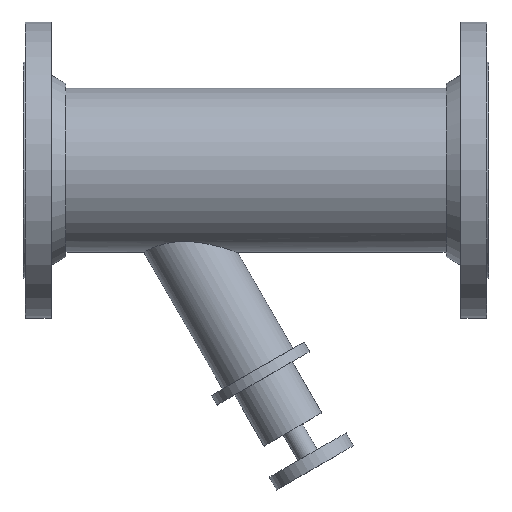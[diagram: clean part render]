
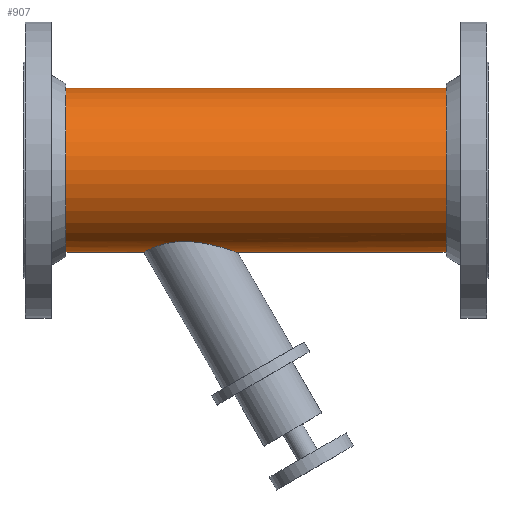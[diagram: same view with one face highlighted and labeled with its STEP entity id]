
A CAD part, top view. The second image highlights one B-rep face of the part: STEP entity #907.
In plain terms, the highlighted cylindrical face has radius 70.65 mm (diameter 141.3 mm), a full revolution.
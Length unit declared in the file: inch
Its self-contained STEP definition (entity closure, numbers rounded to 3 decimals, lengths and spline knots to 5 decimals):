
#45=B_SPLINE_CURVE_WITH_KNOTS('',3,(#1568,#1569,#1570,#1571,#1572,#1573,
#1574,#1575,#1576,#1577,#1578,#1579,#1580,#1581,#1582,#1583,#1584,#1585,
#1586,#1587,#1588,#1589,#1590,#1591,#1592,#1593,#1594,#1595,#1596,#1597,
#1598,#1599),.UNSPECIFIED.,.F.,.F.,(4,2,2,2,2,2,2,2,2,2,2,2,2,2,2,4),(6.1503,
6.82577,7.50123,8.17669,8.85215,10.57638,
11.43849,12.30061,12.99943,13.69826,14.39709,
15.09591,15.75445,16.41298,17.07152,17.73005),
 .UNSPECIFIED.);
#46=B_SPLINE_CURVE_WITH_KNOTS('',3,(#1602,#1603,#1604,#1605,#1606,#1607,
#1608,#1609,#1610,#1611,#1612,#1613,#1614,#1615,#1616,#1617,#1618,#1619),
 .UNSPECIFIED.,.F.,.F.,(4,2,2,2,2,2,2,2,4),(17.73005,18.38858,
19.04712,19.70565,20.36418,21.06301,21.76184,
22.46066,23.15949),.UNSPECIFIED.);
#47=B_SPLINE_CURVE_WITH_KNOTS('',3,(#1620,#1621,#1622,#1623,#1624,#1625,
#1626,#1627,#1628,#1629,#1630,#1631,#1632,#1633,#1634,#1635),
 .UNSPECIFIED.,.F.,.F.,(4,2,2,2,2,2,2,4),(0.,0.86211,1.72423,
3.44846,4.12392,4.79938,5.47484,6.1503),
 .UNSPECIFIED.);
#69=CYLINDRICAL_SURFACE('',#1033,2.7815);
#98=LINE('',#1566,#128);
#99=LINE('',#1600,#129);
#128=VECTOR('',#1290,2.7815);
#129=VECTOR('',#1291,2.7815);
#210=FACE_OUTER_BOUND('',#290,.T.);
#290=EDGE_LOOP('',(#753,#754,#755,#756,#757,#758,#759,#760,#761,#762,#763));
#311=CIRCLE('',#943,2.7815);
#312=CIRCLE('',#944,2.7815);
#361=CIRCLE('',#1016,2.7815);
#362=CIRCLE('',#1017,2.7815);
#393=VERTEX_POINT('',#1389);
#394=VERTEX_POINT('',#1390);
#443=VERTEX_POINT('',#1532);
#444=VERTEX_POINT('',#1533);
#455=VERTEX_POINT('',#1565);
#456=VERTEX_POINT('',#1567);
#457=VERTEX_POINT('',#1601);
#478=EDGE_CURVE('',#393,#394,#311,.T.);
#479=EDGE_CURVE('',#394,#393,#312,.T.);
#548=EDGE_CURVE('',#443,#444,#361,.T.);
#549=EDGE_CURVE('',#444,#443,#362,.T.);
#563=EDGE_CURVE('',#444,#455,#98,.T.);
#564=EDGE_CURVE('',#455,#456,#45,.T.);
#565=EDGE_CURVE('',#456,#394,#99,.T.);
#566=EDGE_CURVE('',#456,#457,#46,.T.);
#567=EDGE_CURVE('',#457,#455,#47,.T.);
#753=ORIENTED_EDGE('',*,*,#548,.T.);
#754=ORIENTED_EDGE('',*,*,#563,.T.);
#755=ORIENTED_EDGE('',*,*,#564,.T.);
#756=ORIENTED_EDGE('',*,*,#565,.T.);
#757=ORIENTED_EDGE('',*,*,#479,.T.);
#758=ORIENTED_EDGE('',*,*,#478,.T.);
#759=ORIENTED_EDGE('',*,*,#565,.F.);
#760=ORIENTED_EDGE('',*,*,#566,.T.);
#761=ORIENTED_EDGE('',*,*,#567,.T.);
#762=ORIENTED_EDGE('',*,*,#563,.F.);
#763=ORIENTED_EDGE('',*,*,#549,.T.);
#907=ADVANCED_FACE('',(#210),#69,.T.);
#943=AXIS2_PLACEMENT_3D('',#1391,#1085,#1086);
#944=AXIS2_PLACEMENT_3D('',#1392,#1087,#1088);
#1016=AXIS2_PLACEMENT_3D('',#1534,#1251,#1252);
#1017=AXIS2_PLACEMENT_3D('',#1535,#1253,#1254);
#1033=AXIS2_PLACEMENT_3D('',#1564,#1288,#1289);
#1085=DIRECTION('center_axis',(1.,0.,0.));
#1086=DIRECTION('ref_axis',(0.,1.,0.));
#1087=DIRECTION('center_axis',(1.,0.,0.));
#1088=DIRECTION('ref_axis',(0.,1.,0.));
#1251=DIRECTION('center_axis',(-1.,0.,0.));
#1252=DIRECTION('ref_axis',(0.,1.,0.));
#1253=DIRECTION('center_axis',(-1.,0.,0.));
#1254=DIRECTION('ref_axis',(0.,1.,0.));
#1288=DIRECTION('center_axis',(1.,0.,0.));
#1289=DIRECTION('ref_axis',(0.,1.,0.));
#1290=DIRECTION('',(-1.,0.,0.));
#1291=DIRECTION('',(-1.,0.,0.));
#1389=CARTESIAN_POINT('',(-6.435,2.7815,0.));
#1390=CARTESIAN_POINT('',(-6.435,-2.7815,0.));
#1391=CARTESIAN_POINT('Origin',(-6.435,0.,0.));
#1392=CARTESIAN_POINT('Origin',(-6.435,0.,0.));
#1532=CARTESIAN_POINT('',(6.435,2.7815,0.));
#1533=CARTESIAN_POINT('',(6.435,-2.7815,0.));
#1534=CARTESIAN_POINT('Origin',(6.435,0.,0.));
#1535=CARTESIAN_POINT('Origin',(6.435,0.,0.));
#1564=CARTESIAN_POINT('Origin',(0.,0.,0.));
#1565=CARTESIAN_POINT('',(-0.62608,-2.7815,0.));
#1566=CARTESIAN_POINT('',(0.,-2.7815,0.));
#1567=CARTESIAN_POINT('',(-3.8015,-2.7815,0.));
#1568=CARTESIAN_POINT('Ctrl Pts',(-0.62608,-2.7815,0.));
#1569=CARTESIAN_POINT('Ctrl Pts',(-0.62608,-2.7815,-0.08864));
#1570=CARTESIAN_POINT('Ctrl Pts',(-0.63862,-2.77717,
-0.17795));
#1571=CARTESIAN_POINT('Ctrl Pts',(-0.68753,-2.76057,-0.35154));
#1572=CARTESIAN_POINT('Ctrl Pts',(-0.72387,-2.74832,
-0.43585));
#1573=CARTESIAN_POINT('Ctrl Pts',(-0.81513,-2.71843,
-0.59445));
#1574=CARTESIAN_POINT('Ctrl Pts',(-0.87012,-2.70079,
-0.66893));
#1575=CARTESIAN_POINT('Ctrl Pts',(-0.99143,-2.66341,
-0.80498));
#1576=CARTESIAN_POINT('Ctrl Pts',(-1.05775,-2.6437,-0.86656));
#1577=CARTESIAN_POINT('Ctrl Pts',(-1.29746,-2.57608,-1.05928));
#1578=CARTESIAN_POINT('Ctrl Pts',(-1.50814,-2.52295,-1.17442));
#1579=CARTESIAN_POINT('Ctrl Pts',(-1.84557,-2.46321,-1.29279));
#1580=CARTESIAN_POINT('Ctrl Pts',(-1.96161,-2.44665,-1.32334));
#1581=CARTESIAN_POINT('Ctrl Pts',(-2.19412,-2.42396,-1.36445));
#1582=CARTESIAN_POINT('Ctrl Pts',(-2.31059,-2.41787,-1.375));
#1583=CARTESIAN_POINT('Ctrl Pts',(-2.51544,-2.41787,-1.375));
#1584=CARTESIAN_POINT('Ctrl Pts',(-2.61057,-2.42191,-1.36801));
#1585=CARTESIAN_POINT('Ctrl Pts',(-2.79914,-2.4396,-1.33619));
#1586=CARTESIAN_POINT('Ctrl Pts',(-2.89258,-2.45329,-1.31133));
#1587=CARTESIAN_POINT('Ctrl Pts',(-3.07005,-2.48862,-1.24298));
#1588=CARTESIAN_POINT('Ctrl Pts',(-3.15432,-2.51027,-1.19938));
#1589=CARTESIAN_POINT('Ctrl Pts',(-3.30807,-2.55705,-1.0961));
#1590=CARTESIAN_POINT('Ctrl Pts',(-3.37757,-2.58211,-1.03642));
#1591=CARTESIAN_POINT('Ctrl Pts',(-3.4952,-2.62885,-0.91109));
#1592=CARTESIAN_POINT('Ctrl Pts',(-3.5478,-2.65205,-0.8423));
#1593=CARTESIAN_POINT('Ctrl Pts',(-3.63939,-2.69508,-0.69235));
#1594=CARTESIAN_POINT('Ctrl Pts',(-3.67842,-2.71489,-0.6112));
#1595=CARTESIAN_POINT('Ctrl Pts',(-3.74063,-2.74754,-0.44184));
#1596=CARTESIAN_POINT('Ctrl Pts',(-3.76389,-2.76039,-0.35349));
#1597=CARTESIAN_POINT('Ctrl Pts',(-3.79433,-2.77737,-0.17578));
#1598=CARTESIAN_POINT('Ctrl Pts',(-3.8015,-2.7815,-0.08642));
#1599=CARTESIAN_POINT('Ctrl Pts',(-3.8015,-2.7815,0.));
#1600=CARTESIAN_POINT('',(0.,-2.7815,0.));
#1601=CARTESIAN_POINT('',(-2.42373,-2.41787,1.375));
#1602=CARTESIAN_POINT('Ctrl Pts',(-3.8015,-2.7815,0.));
#1603=CARTESIAN_POINT('Ctrl Pts',(-3.8015,-2.7815,0.08642));
#1604=CARTESIAN_POINT('Ctrl Pts',(-3.79433,-2.77737,0.17578));
#1605=CARTESIAN_POINT('Ctrl Pts',(-3.76389,-2.76039,0.35349));
#1606=CARTESIAN_POINT('Ctrl Pts',(-3.74063,-2.74754,0.44184));
#1607=CARTESIAN_POINT('Ctrl Pts',(-3.67842,-2.71489,0.6112));
#1608=CARTESIAN_POINT('Ctrl Pts',(-3.63939,-2.69508,0.69235));
#1609=CARTESIAN_POINT('Ctrl Pts',(-3.5478,-2.65205,0.8423));
#1610=CARTESIAN_POINT('Ctrl Pts',(-3.4952,-2.62885,0.91109));
#1611=CARTESIAN_POINT('Ctrl Pts',(-3.37757,-2.58211,1.03642));
#1612=CARTESIAN_POINT('Ctrl Pts',(-3.30807,-2.55705,1.0961));
#1613=CARTESIAN_POINT('Ctrl Pts',(-3.15432,-2.51027,1.19938));
#1614=CARTESIAN_POINT('Ctrl Pts',(-3.07005,-2.48862,1.24298));
#1615=CARTESIAN_POINT('Ctrl Pts',(-2.89258,-2.45329,1.31133));
#1616=CARTESIAN_POINT('Ctrl Pts',(-2.79914,-2.4396,1.33619));
#1617=CARTESIAN_POINT('Ctrl Pts',(-2.61057,-2.42191,1.36801));
#1618=CARTESIAN_POINT('Ctrl Pts',(-2.51544,-2.41787,1.375));
#1619=CARTESIAN_POINT('Ctrl Pts',(-2.42373,-2.41787,1.375));
#1620=CARTESIAN_POINT('Ctrl Pts',(-2.42373,-2.41787,1.375));
#1621=CARTESIAN_POINT('Ctrl Pts',(-2.31059,-2.41787,1.375));
#1622=CARTESIAN_POINT('Ctrl Pts',(-2.19412,-2.42396,1.36445));
#1623=CARTESIAN_POINT('Ctrl Pts',(-1.96161,-2.44665,1.32334));
#1624=CARTESIAN_POINT('Ctrl Pts',(-1.84557,-2.46321,1.29279));
#1625=CARTESIAN_POINT('Ctrl Pts',(-1.50814,-2.52295,1.17442));
#1626=CARTESIAN_POINT('Ctrl Pts',(-1.29746,-2.57608,1.05928));
#1627=CARTESIAN_POINT('Ctrl Pts',(-1.05775,-2.6437,0.86656));
#1628=CARTESIAN_POINT('Ctrl Pts',(-0.99143,-2.66341,
0.80498));
#1629=CARTESIAN_POINT('Ctrl Pts',(-0.87012,-2.70079,
0.66893));
#1630=CARTESIAN_POINT('Ctrl Pts',(-0.81513,-2.71843,
0.59445));
#1631=CARTESIAN_POINT('Ctrl Pts',(-0.72387,-2.74832,
0.43585));
#1632=CARTESIAN_POINT('Ctrl Pts',(-0.68753,-2.76057,0.35154));
#1633=CARTESIAN_POINT('Ctrl Pts',(-0.63862,-2.77717,
0.17795));
#1634=CARTESIAN_POINT('Ctrl Pts',(-0.62608,-2.7815,0.08864));
#1635=CARTESIAN_POINT('Ctrl Pts',(-0.62608,-2.7815,0.));
